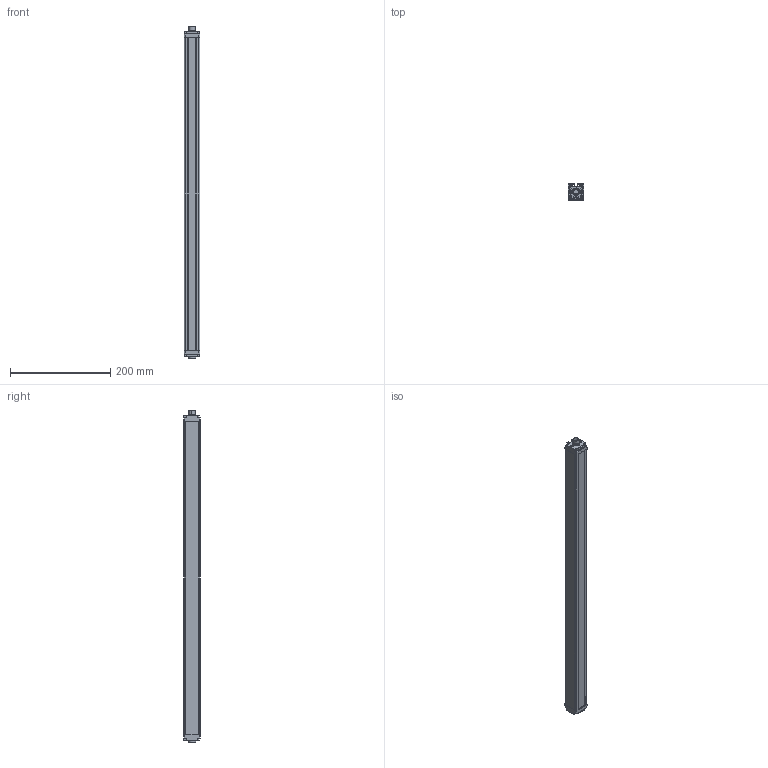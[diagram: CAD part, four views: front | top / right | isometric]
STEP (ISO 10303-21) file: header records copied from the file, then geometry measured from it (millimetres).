
FILE_DESCRIPTION(/* description */ (''),/* implementation_level */ '2;1');
FILE_NAME(/* name */ 'TYG10-60.stp',/* time_stamp */ '2023-08-25T13:14:01+08:00',/* author */ (''),/* organization */ (''),/* preprocessor_version */ 'ST-DEVELOPER v16',/* originating_system */ 'SIEMENS PLM Software NX 11.0',/* authorisation */ '');
FILE_SCHEMA (('AUTOMOTIVE_DESIGN { 1 0 10303 214 3 1 1 1 }'));
Length unit declared in the file: millimetre
Products named in the file (5): YAKELI80; B-082381; K-082382; 2023033183; TYG10-48_stp
Assembly tree (4 placements, depth 2):
  TYG10-48_stp
    2023033183
    K-082382
    B-082381
    YAKELI80
Bounding box: 31.87 x 33.07 x 663 mm (x, y, z)
Volume: 219061.7 mm3; surface area: 230135.1 mm2
Topology: 4 solids, 4 shells, 629 faces, 1887 edges, 1256 vertices
Faces by surface type: plane 346, cylinder 203, cone 36, sphere 16, torus 16, extrusion 8, bspline 4
Entity records: 21919 total; most frequent: CARTESIAN_POINT 4517, ORIENTED_EDGE 3758, DIRECTION 3553, EDGE_CURVE 1879, VERTEX_POINT 1256, AXIS2_PLACEMENT_3D 1188, VECTOR 1177, LINE 1169
